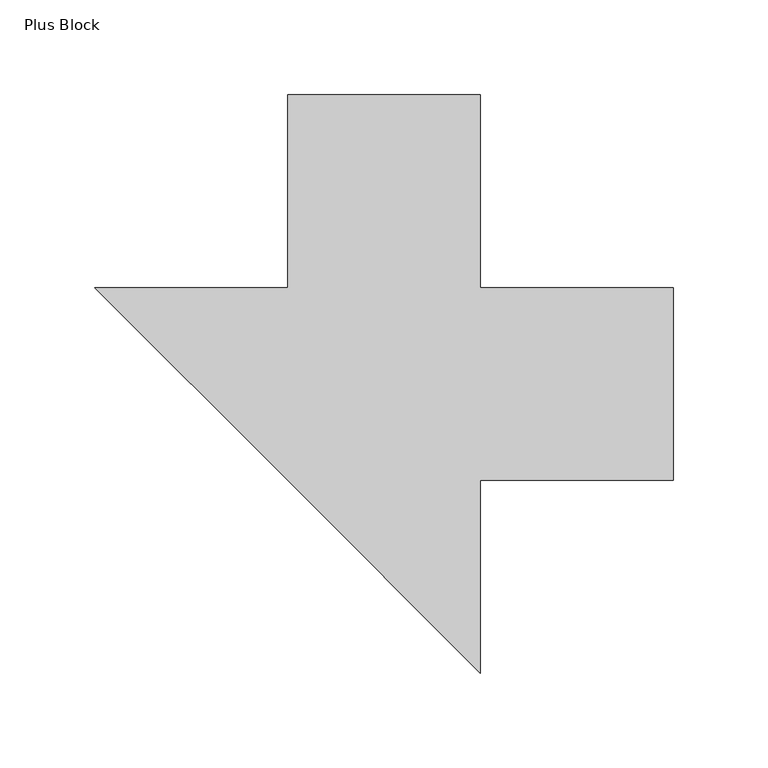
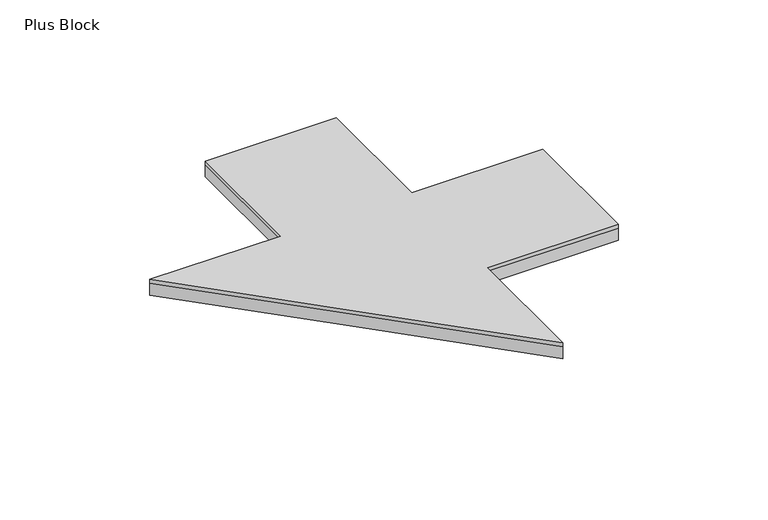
"""IFC4 building model written with IfcOpenShell, lengths in millimetres: proxy geometry, FilzFelt_Plus_Block : Plus Block."""

from ifc_helpers import new_model, si_unit, origin, place, context, project, spatial, faceted_brep, source, transform, mapped, element, save


def plus_block_983ba188(model_context):
    return source(origin(), model_context, "Body", "Brep", [
        faceted_brep([(50.8333333, 50.8333333, 10.0210937), (152.5, 50.8333333, 10.0210937), (152.5, -50.8333333, 10.0210937), (50.8333333, -50.8333333, 10.0210937), (50.8333333, -152.5, 10.0210937), (-50.8333333, -50.8333333, 10.0210937), (-152.5, 50.8333333, 10.0210937), (-50.8333333, 50.8333333, 10.0210937), (-50.8333333, 152.5, 10.0210937), (50.8333333, 152.5, 10.0210937), (50.8333333, 50.8333333, 12.9976563), (50.8333333, 152.5, 12.9976563), (-50.8333333, 152.5, 12.9976563), (-50.8333333, 50.8333333, 12.9976563), (-152.5, 50.8333333, 12.9976563), (-50.8333333, -50.8333333, 12.9976563), (50.8333333, -152.5, 12.9976563), (50.8333333, -50.8333333, 12.9976563), (152.5, -50.8333333, 12.9976563), (152.5, 50.8333333, 12.9976563)], [[[0, 1, 2, 3, 4, 5, 6, 7, 8, 9]], [[10, 11, 12, 13, 14, 15, 16, 17, 18, 19]], [[1, 0, 10, 19]], [[2, 1, 19, 18]], [[3, 2, 18, 17]], [[4, 3, 17, 16]], [[7, 6, 14, 13]], [[8, 7, 13, 12]], [[9, 8, 12, 11]], [[0, 9, 11, 10]], [[5, 4, 16, 15, 14, 6]]]),
        faceted_brep([(-152.5, 50.8333333, 0.0), (-50.8333333, 50.8333333, 0.0), (-50.8333333, 152.5, 0.0), (50.8333333, 152.5, 0.0), (50.8333333, 50.8333333, 0.0), (152.5, 50.8333333, 0.0), (152.5, -50.8333333, 0.0), (50.8333333, -50.8333333, 0.0), (50.8333333, -152.5, 0.0), (-50.8333333, -50.8333333, 0.0), (50.8333333, -152.5, 10.0210937), (50.8333333, -50.8333333, 10.0210937), (152.5, -50.8333333, 10.0210937), (152.5, 50.8333333, 10.0210937), (50.8333333, 50.8333333, 10.0210937), (50.8333333, 152.5, 10.0210937), (-50.8333333, 152.5, 10.0210937), (-50.8333333, 50.8333333, 10.0210937), (-152.5, 50.8333333, 10.0210937), (-50.8333333, -50.8333333, 10.0210937)], [[[0, 1, 2, 3, 4, 5, 6, 7, 8, 9]], [[10, 11, 12, 13, 14, 15, 16, 17, 18, 19]], [[3, 2, 16, 15]], [[6, 5, 13, 12]], [[1, 0, 18, 17]], [[2, 1, 17, 16]], [[4, 3, 15, 14]], [[5, 4, 14, 13]], [[7, 6, 12, 11]], [[8, 7, 11, 10]], [[0, 9, 8, 10, 19, 18]]]),
    ])


if __name__ == "__main__":
    model = new_model("IFC4")
    model_context = context("Model", 3, world=origin())
    ifc_project = project(units=[si_unit("LENGTHUNIT", "METRE", prefix="MILLI")], contexts=[model_context])
    site = spatial("IfcSite", under=ifc_project)
    building = spatial("IfcBuilding", under=site)
    placement = place(None, origin())
    plus_block_shape = plus_block_983ba188(model_context)
    element("IfcBuildingElementProxy", 1, Name="FilzFelt_Plus_Block : Plus Block", ObjectType="FilzFelt_Plus_Block : Plus Block", at=placement, inside=building, context=model_context, shape_type="MappedRepresentation", body=[
        mapped(plus_block_shape, transform((0.0, 0.0, 0.0), x_axis=(1.0, 0.0, 0.0), y_axis=(0.0, 1.0, 0.0), z_axis=(0.0, 0.0, 1.0))),
    ])
    save(model, "model.ifc")
